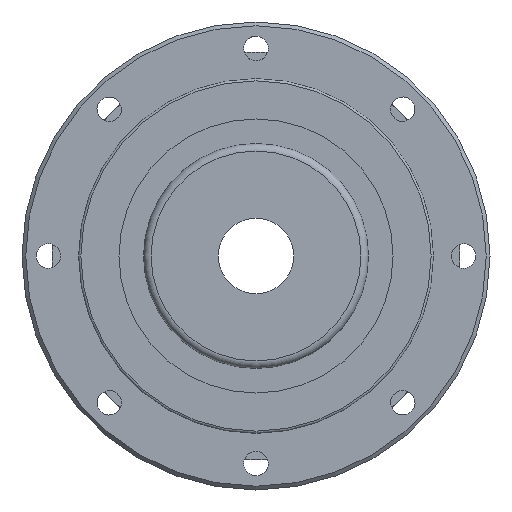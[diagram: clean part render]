
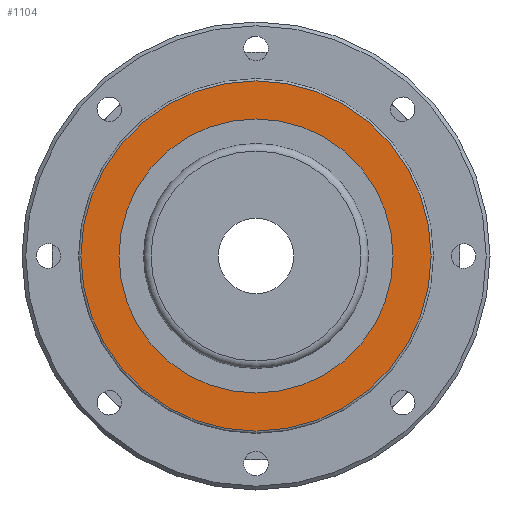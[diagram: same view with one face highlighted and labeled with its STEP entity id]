
A CAD part, left-side view. The second image highlights one B-rep face of the part: STEP entity #1104.
In plain terms, the highlighted planar face has unit normal (-1, 0, 0).
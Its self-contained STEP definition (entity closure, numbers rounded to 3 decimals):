
#153=ORIENTED_EDGE('',*,*,#314,.T.);
#154=ORIENTED_EDGE('',*,*,#313,.F.);
#313=EDGE_CURVE('',#384,#384,#459,.T.);
#314=EDGE_CURVE('',#385,#385,#460,.T.);
#384=VERTEX_POINT('',#1753);
#385=VERTEX_POINT('',#1756);
#459=CIRCLE('',#1213,18.16);
#460=CIRCLE('',#1215,23.2);
#521=EDGE_LOOP('',(#153));
#522=EDGE_LOOP('',(#154));
#619=FACE_BOUND('',#521,.T.);
#620=FACE_BOUND('',#522,.T.);
#697=PLANE('',#1214);
#1104=ADVANCED_FACE('',(#619,#620),#697,.T.);
#1213=AXIS2_PLACEMENT_3D('',#1752,#1421,#1422);
#1214=AXIS2_PLACEMENT_3D('',#1754,#1423,#1424);
#1215=AXIS2_PLACEMENT_3D('',#1755,#1425,#1426);
#1421=DIRECTION('',(-1.,0.,0.));
#1422=DIRECTION('',(0.,0.,1.));
#1423=DIRECTION('',(-1.,0.,0.));
#1424=DIRECTION('',(0.,0.,1.));
#1425=DIRECTION('',(-1.,0.,0.));
#1426=DIRECTION('',(0.,0.,1.));
#1752=CARTESIAN_POINT('',(2.8,0.,0.));
#1753=CARTESIAN_POINT('',(2.8,0.,18.16));
#1754=CARTESIAN_POINT('',(2.8,0.,18.16));
#1755=CARTESIAN_POINT('',(2.8,0.,0.));
#1756=CARTESIAN_POINT('',(2.8,0.,23.2));
